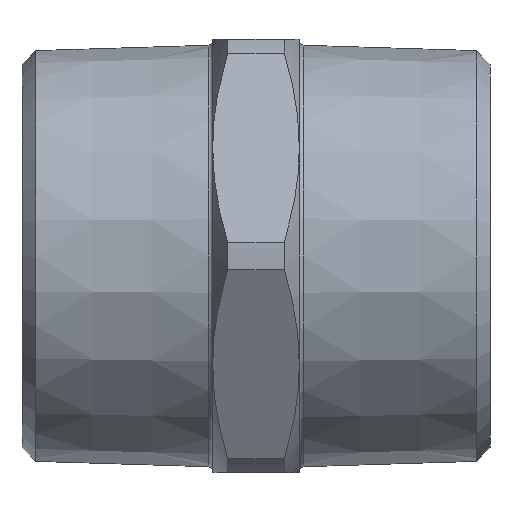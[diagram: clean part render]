
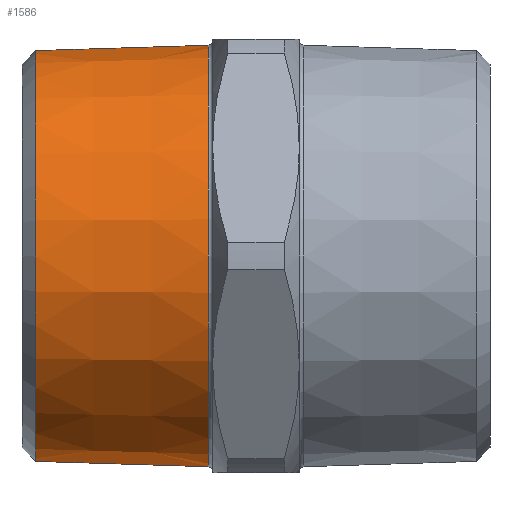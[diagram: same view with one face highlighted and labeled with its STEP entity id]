
A CAD part, front view. The second image highlights one B-rep face of the part: STEP entity #1586.
In plain terms, the highlighted conical face has half-angle 1.79 degrees and reference radius 23.694 mm.
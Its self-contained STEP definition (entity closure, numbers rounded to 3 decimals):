
#12 = EDGE_CURVE ( 'NONE', #442, #443, #631, .T. ) ;
#33 = EDGE_CURVE ( 'NONE', #453, #443, #863, .T. ) ;
#35 = EDGE_CURVE ( 'NONE', #458, #442, #880, .T. ) ;
#64 = EDGE_CURVE ( 'NONE', #453, #458, #831, .T. ) ;
#124 = AXIS2_PLACEMENT_3D ( 'NONE', #1393, #1383, #1382 ) ;
#160 = AXIS2_PLACEMENT_3D ( 'NONE', #1348, #1347, #1036 ) ;
#191 = AXIS2_PLACEMENT_3D ( 'NONE', #1429, #1427, #1425 ) ;
#297 = EDGE_LOOP ( 'NONE', ( #563, #564, #559, #566 ) ) ;
#442 = VERTEX_POINT ( 'NONE', #1012 ) ;
#443 = VERTEX_POINT ( 'NONE', #1014 ) ;
#453 = VERTEX_POINT ( 'NONE', #998 ) ;
#458 = VERTEX_POINT ( 'NONE', #992 ) ;
#559 = ORIENTED_EDGE ( 'NONE', *, *, #35, .T. ) ;
#563 = ORIENTED_EDGE ( 'NONE', *, *, #33, .F. ) ;
#564 = ORIENTED_EDGE ( 'NONE', *, *, #64, .T. ) ;
#566 = ORIENTED_EDGE ( 'NONE', *, *, #12, .T. ) ;
#631 = CIRCLE ( 'NONE', #124, 24.316 ) ;
#756 = CONICAL_SURFACE ( 'NONE', #191, 23.694, 0.031 ) ;
#770 = FACE_OUTER_BOUND ( 'NONE', #297, .T. ) ;
#831 = CIRCLE ( 'NONE', #160, 23.694 ) ;
#863 = LINE ( 'NONE', #1363, #882 ) ;
#874 = VECTOR ( 'NONE', #1409, 1000. ) ;
#880 = LINE ( 'NONE', #1406, #874 ) ;
#882 = VECTOR ( 'NONE', #1420, 1000. ) ;
#992 = CARTESIAN_POINT ( 'NONE',  ( -52.4, 0., -23.694 ) ) ;
#998 = CARTESIAN_POINT ( 'NONE',  ( -52.4, 0., 23.694 ) ) ;
#1012 = CARTESIAN_POINT ( 'NONE',  ( -32.484, 0., -24.316 ) ) ;
#1014 = CARTESIAN_POINT ( 'NONE',  ( -32.484, 0., 24.316 ) ) ;
#1036 = DIRECTION ( 'NONE',  ( 0., 0., -1. ) ) ;
#1347 = DIRECTION ( 'NONE',  ( 1., 0., 0. ) ) ;
#1348 = CARTESIAN_POINT ( 'NONE',  ( -52.4, 0., 0. ) ) ;
#1363 = CARTESIAN_POINT ( 'NONE',  ( -52.4, 0., 23.694 ) ) ;
#1382 = DIRECTION ( 'NONE',  ( 0., 0., -1. ) ) ;
#1383 = DIRECTION ( 'NONE',  ( -1., 0., 0. ) ) ;
#1393 = CARTESIAN_POINT ( 'NONE',  ( -32.484, 0., 0. ) ) ;
#1406 = CARTESIAN_POINT ( 'NONE',  ( -52.4, 0., -23.694 ) ) ;
#1409 = DIRECTION ( 'NONE',  ( 1., 0., -0.031 ) ) ;
#1420 = DIRECTION ( 'NONE',  ( 1., 0., 0.031 ) ) ;
#1425 = DIRECTION ( 'NONE',  ( 0., 0., -1. ) ) ;
#1427 = DIRECTION ( 'NONE',  ( 1., 0., 0. ) ) ;
#1429 = CARTESIAN_POINT ( 'NONE',  ( -52.4, 0., 0. ) ) ;
#1586 = ADVANCED_FACE ( 'NONE', ( #770 ), #756, .T. ) ;
